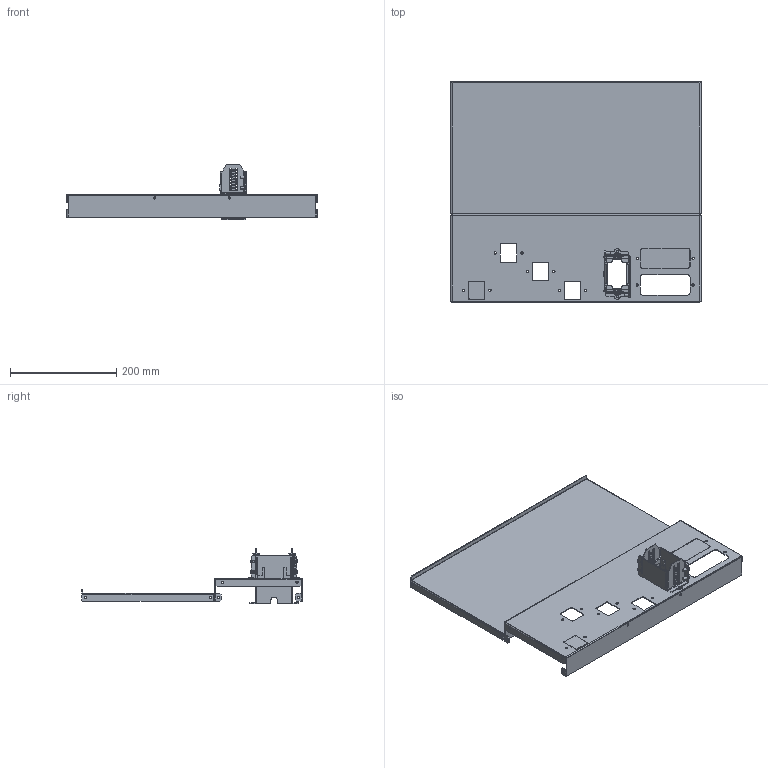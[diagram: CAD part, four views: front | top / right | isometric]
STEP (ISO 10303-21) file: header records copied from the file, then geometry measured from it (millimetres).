
FILE_DESCRIPTION(('CAx-IF Rec.Pracs.---Model Styling and Organization---1.2---2011-12-15','CAx-IF Rec.Pracs.---Geometric and Assembly Validation Properties---4.1---2014-06-16','CAx-IF Rec.Pracs.---PMI Polyline Presentation---2.0---2013-05-24'),'2;1');
FILE_NAME('R5M2W9M1BR21.stp','2021-05-05T12:37:20+03:00',(''),(''),'STEP Interface 4.4 by CT CoreTechnologie','3D_Evolution4.4 by CT CoreTechnologie','');
FILE_SCHEMA(('AUTOMOTIVE_DESIGN { 1 0 10303 214 1 1 1 1 }'));
Length unit declared in the file: millimetre
Products named in the file (9): R5M2W9M1BR21; RB.1567.00.00.0_-00; RB.1765.00.00.0 ÑÁ; RB.1570.00.00.0; RB.1569.00.00.1_-00; RB.1571.00.00.0_In prestressed condition - 40 mm; M5x8-DIN7500C_stright; RB.1506.00.00.0_-02; RB.1507.00.00.0_-03
Assembly tree (14 placements, depth 3):
  R5M2W9M1BR21
    RB.1567.00.00.0_-00
    RB.1765.00.00.0 ÑÁ
      RB.1570.00.00.0  x2
      RB.1569.00.00.1_-00  x2
      RB.1571.00.00.0_In prestressed condition - 40 mm  x2
      M5x8-DIN7500C_stright  x4
    RB.1506.00.00.0_-02
    RB.1507.00.00.0_-03
Bounding box: 470 x 414.2 x 103.8 mm (x, y, z)
Surface area: 557893.9 mm2 (no closed solid volume)
Topology: 0 solids, 22 shells, 752 faces, 1987 edges, 1279 vertices
Faces by surface type: plane 502, cylinder 220, bspline 30
Entity records: 19613 total; most frequent: CARTESIAN_POINT 4665, ORIENTED_EDGE 2994, DIRECTION 2971, EDGE_CURVE 1497, VECTOR 1117, LINE 1117, VERTEX_POINT 961, AXIS2_PLACEMENT_3D 927
